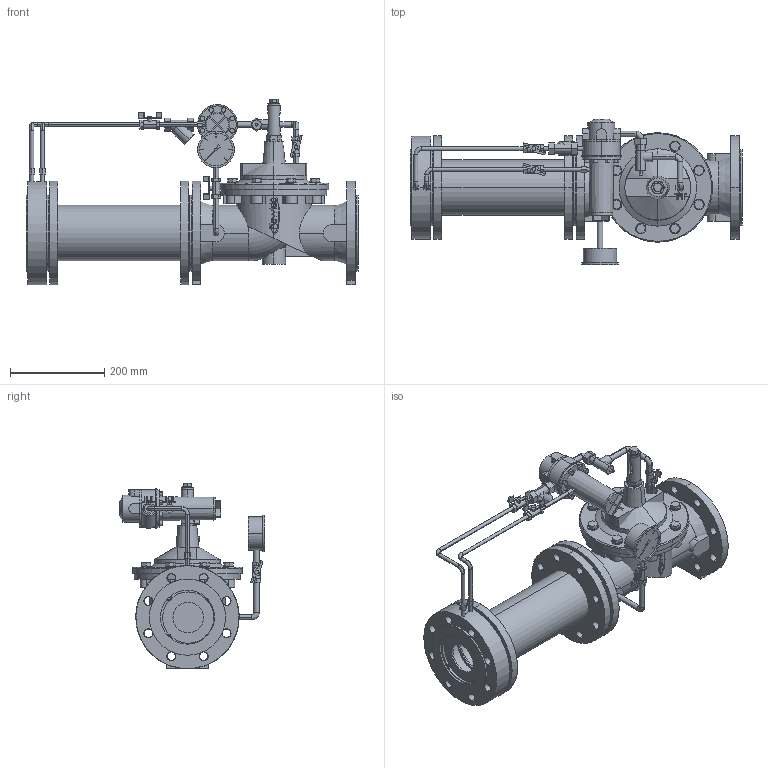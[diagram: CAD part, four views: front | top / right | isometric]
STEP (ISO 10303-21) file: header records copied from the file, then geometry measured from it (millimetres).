
FILE_DESCRIPTION(('STEP AP214'),'1');
FILE_NAME('1709 100 000.STP','2020-04-28T08:35:41',(' '),(' '),'Spatial InterOp 3D',' ',' ');
FILE_SCHEMA(('AUTOMOTIVE_DESIGN { 1 0 10303 214 1 1 1 1 }'));
Length unit declared in the file: millimetre
Products named in the file (1): 3D-Objekt
Bounding box: 706 x 309.66 x 394.9 mm (x, y, z)
Volume: 11744974.8 mm3; surface area: 1604536.6 mm2
Topology: 174 solids, 218 shells, 1355 faces, 3081 edges, 2122 vertices
Faces by surface type: plane 834, cylinder 461, torus 36, cone 24
Entity records: 42581 total; most frequent: CARTESIAN_POINT 7673, DIRECTION 7297, ORIENTED_EDGE 5970, EDGE_CURVE 3081, AXIS2_PLACEMENT_3D 2674, VERTEX_POINT 2122, LINE 1949, VECTOR 1949
